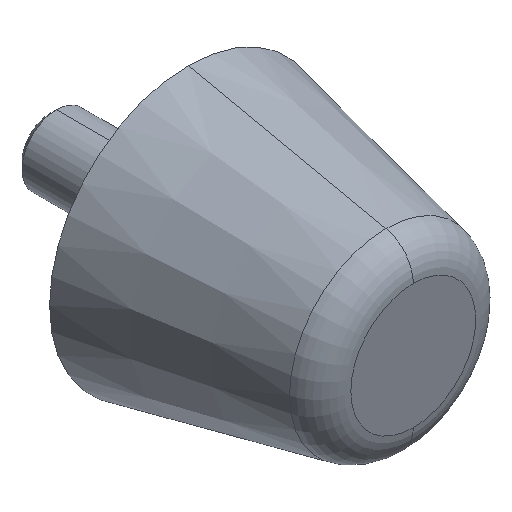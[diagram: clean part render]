
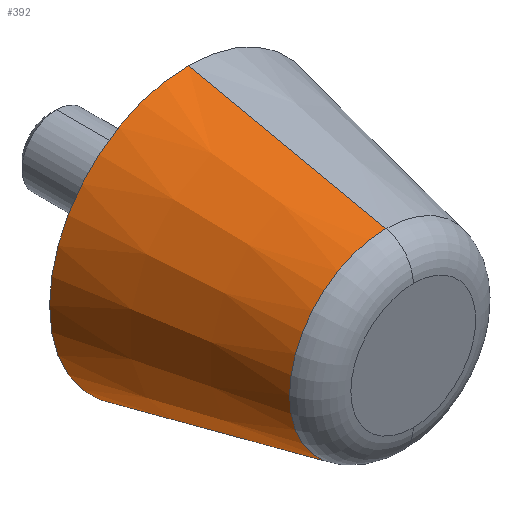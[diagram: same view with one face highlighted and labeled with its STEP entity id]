
A CAD part, isometric view. The second image highlights one B-rep face of the part: STEP entity #392.
In plain terms, the highlighted conical face has half-angle 12.05 degrees and reference radius 10.45 mm.
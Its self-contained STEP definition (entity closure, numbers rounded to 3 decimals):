
#1 = AXIS2_PLACEMENT_3D ( 'NONE', #477, #306, #404 ) ;
#2 = ORIENTED_EDGE ( 'NONE', *, *, #330, .T. ) ;
#6 = DIRECTION ( 'NONE',  ( 0., 0.978, 0.209 ) ) ;
#11 = CARTESIAN_POINT ( 'NONE',  ( 0., 3.165, -11.126 ) ) ;
#24 = VECTOR ( 'NONE', #6, 1000. ) ;
#63 = ORIENTED_EDGE ( 'NONE', *, *, #95, .F. ) ;
#75 = EDGE_CURVE ( 'NONE', #258, #214, #489, .T. ) ;
#91 = LINE ( 'NONE', #355, #104 ) ;
#95 = EDGE_CURVE ( 'NONE', #258, #177, #91, .T. ) ;
#97 = EDGE_LOOP ( 'NONE', ( #63, #530, #2, #383 ) ) ;
#104 = VECTOR ( 'NONE', #436, 1000. ) ;
#121 = CARTESIAN_POINT ( 'NONE',  ( 0., 26., 16. ) ) ;
#177 = VERTEX_POINT ( 'NONE', #486 ) ;
#192 = DIRECTION ( 'NONE',  ( 0., 1., 0. ) ) ;
#199 = CARTESIAN_POINT ( 'NONE',  ( 0., 3.165, 11.126 ) ) ;
#209 = DIRECTION ( 'NONE',  ( 0., -1., 0. ) ) ;
#214 = VERTEX_POINT ( 'NONE', #199 ) ;
#258 = VERTEX_POINT ( 'NONE', #11 ) ;
#306 = DIRECTION ( 'NONE',  ( 0., 1., 0. ) ) ;
#309 = FACE_OUTER_BOUND ( 'NONE', #97, .T. ) ;
#330 = EDGE_CURVE ( 'NONE', #214, #490, #386, .T. ) ;
#343 = AXIS2_PLACEMENT_3D ( 'NONE', #441, #192, #358 ) ;
#355 = CARTESIAN_POINT ( 'NONE',  ( 0., 0., -10.45 ) ) ;
#358 = DIRECTION ( 'NONE',  ( 0., 0., 1. ) ) ;
#383 = ORIENTED_EDGE ( 'NONE', *, *, #487, .T. ) ;
#386 = LINE ( 'NONE', #428, #24 ) ;
#388 = CONICAL_SURFACE ( 'NONE', #343, 10.45, 0.21 ) ;
#392 = ADVANCED_FACE ( 'NONE', ( #309 ), #388, .T. ) ;
#404 = DIRECTION ( 'NONE',  ( 0., 0., -1. ) ) ;
#421 = CARTESIAN_POINT ( 'NONE',  ( 0., 26., 0. ) ) ;
#428 = CARTESIAN_POINT ( 'NONE',  ( 0., 0., 10.45 ) ) ;
#436 = DIRECTION ( 'NONE',  ( 0., 0.978, -0.209 ) ) ;
#441 = CARTESIAN_POINT ( 'NONE',  ( 0., 0., 0. ) ) ;
#463 = AXIS2_PLACEMENT_3D ( 'NONE', #421, #209, #495 ) ;
#477 = CARTESIAN_POINT ( 'NONE',  ( 0., 3.165, 0. ) ) ;
#486 = CARTESIAN_POINT ( 'NONE',  ( 0., 26., -16. ) ) ;
#487 = EDGE_CURVE ( 'NONE', #490, #177, #547, .T. ) ;
#489 = CIRCLE ( 'NONE', #1, 11.126 ) ;
#490 = VERTEX_POINT ( 'NONE', #121 ) ;
#495 = DIRECTION ( 'NONE',  ( 0., 0., -1. ) ) ;
#530 = ORIENTED_EDGE ( 'NONE', *, *, #75, .T. ) ;
#547 = CIRCLE ( 'NONE', #463, 16. ) ;
